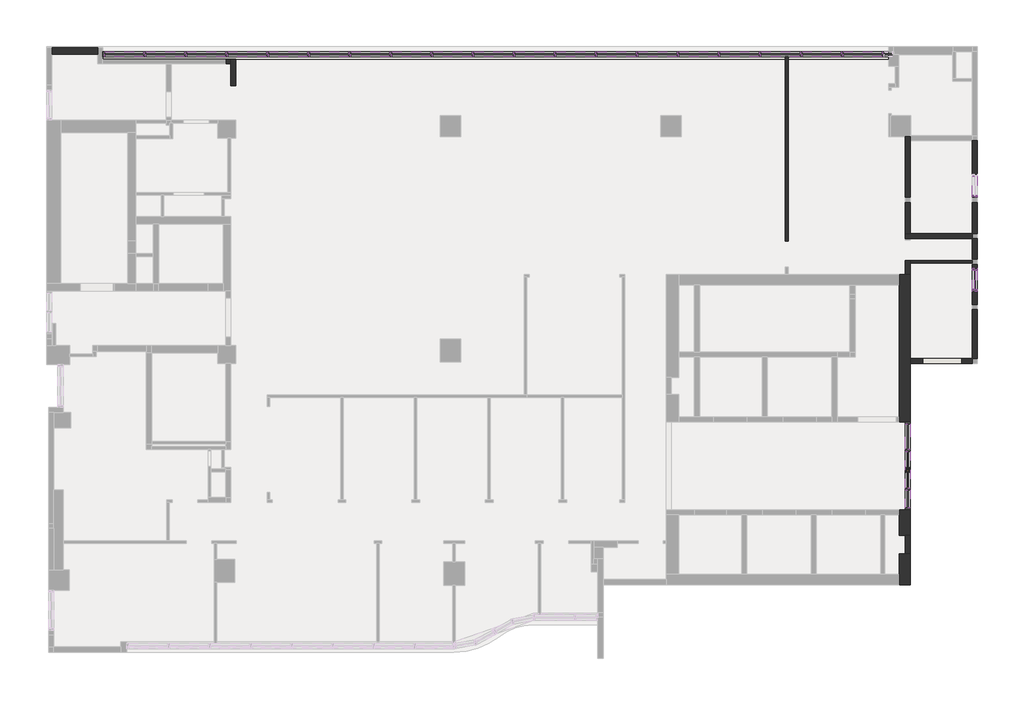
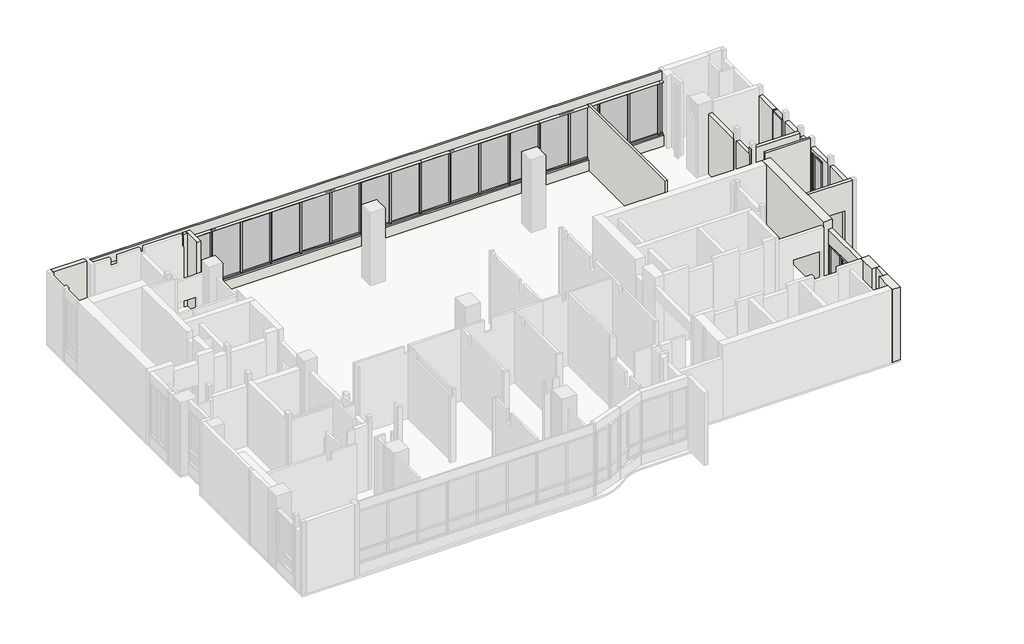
# One storey, part 4 of 5: 80 members, 24 plates, 21 walls, 1 door.
"""IFC4 building model written with IfcOpenShell, lengths in millimetres."""

from ifc_helpers import new_model, si_unit, frame, origin, place, context, project, spatial, polyline, outline, extrude, faceted_brep, transform, mapped, element, save
from components import door_a6c7acc9, member_70_x_200mm_85eb935a, member_70_x_200mm_ae6c61ee, member_70_x_200mm_b993ec4f, member_70_x_200mm_d2b00836, member_70_x_200mm_12a6a6c2, member_70_x_200mm_6f0fbdc8, member_70_x_200mm_47bebe16, member_80_x_200mm_c01ebbc2, member_80_x_200mm_d4063cdf, member_80_x_200mm_acbc830d, member_80_x_200mm_ad283842, member_80_x_200mm_1bd8c9b3, member_80_x_200mm_ce7c0673, member_80_x_200mm_ca749dba, plate_ecb7967d, plate_2d4e0490, plate_9c331fab, plate_c03f1867, plate_fe0cc9e6, plate_3a2ac947

model = new_model("IFC4")

# Units and contexts
model_context = context("Model", 3, world=origin())
ifc_project = project(units=[si_unit("LENGTHUNIT", "METRE", prefix="MILLI")], contexts=[model_context])

# Site, building, storey
site = spatial("IfcSite", under=ifc_project)
building = spatial("IfcBuilding", under=site)
storey = spatial("IfcBuildingStorey", under=building, Name="20F(S)", Elevation=-100.0)

# Door
placement = place(None, origin())
door_shape = door_a6c7acc9(model_context)
element("IfcDoor", 1, ObjectType="门嵌板_双开门3 : 门嵌板_双开门 3", at=placement, inside=storey, context=model_context, shape_type="MappedRepresentation", body=[
    mapped(door_shape, transform((32690.0000015, 4069.99237, 80.0), x_axis=(0.0, -1.0, 0.0), y_axis=(1.0, 0.0, 0.0), z_axis=(0.0, 0.0, 1.0))),
])

# Members
member_70_x_200mm_shape = member_70_x_200mm_85eb935a(model_context)
element("IfcMember", 2, ObjectType="矩形竖梃 : 70 x 200mm", at=placement, inside=storey, context=model_context, shape_type="MappedRepresentation", body=[
    mapped(member_70_x_200mm_shape, transform((35290.0000011, 14639.8579857, 500.0), x_axis=(0.0, -1.0, 0.0), y_axis=(-1.0, 0.0, 0.0), z_axis=(0.0, 0.0, -1.0))),
])
element("IfcMember", 3, ObjectType="矩形竖梃 : 70 x 200mm", at=placement, inside=storey, context=model_context, shape_type="MappedRepresentation", body=[
    mapped(member_70_x_200mm_shape, transform((35290.0000003, 10989.9924082, 500.0), x_axis=(0.0, -1.0, 0.0), y_axis=(-1.0, 0.0, 0.0), z_axis=(0.0, 0.0, -1.0))),
])
member_70_x_200mm_2_shape = member_70_x_200mm_ae6c61ee(model_context)
element("IfcMember", 4, ObjectType="矩形竖梃 : 70 x 200mm", at=placement, inside=storey, context=model_context, shape_type="MappedRepresentation", body=[
    mapped(member_70_x_200mm_2_shape, transform((35290.0000011, 14639.8579857, 1210.0), x_axis=(0.0, -1.0, 0.0), y_axis=(-1.0, 0.0, 0.0), z_axis=(0.0, 0.0, -1.0))),
])
element("IfcMember", 5, ObjectType="矩形竖梃 : 70 x 200mm", at=placement, inside=storey, context=model_context, shape_type="MappedRepresentation", body=[
    mapped(member_70_x_200mm_shape, transform((35290.0000003, 11889.9924082, 1210.0), x_axis=(0.0, 1.0, 0.0), y_axis=(-1.0, 0.0, 0.0), z_axis=(0.0, 0.0, 1.0))),
])
member_70_x_200mm_3_shape = member_70_x_200mm_b993ec4f(model_context)
element("IfcMember", 6, ObjectType="矩形竖梃 : 70 x 200mm", at=placement, inside=storey, context=model_context, shape_type="MappedRepresentation", body=[
    mapped(member_70_x_200mm_3_shape, transform((3115.0000012, 20190.0, 500.0), x_axis=(1.0, 0.0, 0.0), y_axis=(0.0, -1.0, 0.0), z_axis=(0.0, 0.0, -1.0))),
])
element("IfcMember", 7, ObjectType="矩形竖梃 : 70 x 200mm", at=placement, inside=storey, context=model_context, shape_type="MappedRepresentation", body=[
    mapped(member_70_x_200mm_3_shape, transform((4705.0000012, 20190.0, 500.0), x_axis=(1.0, 0.0, 0.0), y_axis=(0.0, -1.0, 0.0), z_axis=(0.0, 0.0, -1.0))),
])
element("IfcMember", 8, ObjectType="矩形竖梃 : 70 x 200mm", at=placement, inside=storey, context=model_context, shape_type="MappedRepresentation", body=[
    mapped(member_70_x_200mm_3_shape, transform((6295.0000012, 20190.0, 500.0), x_axis=(1.0, 0.0, 0.0), y_axis=(0.0, -1.0, 0.0), z_axis=(0.0, 0.0, -1.0))),
])
element("IfcMember", 9, ObjectType="矩形竖梃 : 70 x 200mm", at=placement, inside=storey, context=model_context, shape_type="MappedRepresentation", body=[
    mapped(member_70_x_200mm_3_shape, transform((7885.0000012, 20190.0, 500.0), x_axis=(1.0, 0.0, 0.0), y_axis=(0.0, -1.0, 0.0), z_axis=(0.0, 0.0, -1.0))),
])
element("IfcMember", 10, ObjectType="矩形竖梃 : 70 x 200mm", at=placement, inside=storey, context=model_context, shape_type="MappedRepresentation", body=[
    mapped(member_70_x_200mm_3_shape, transform((9475.0000012, 20190.0, 500.0), x_axis=(1.0, 0.0, 0.0), y_axis=(0.0, -1.0, 0.0), z_axis=(0.0, 0.0, -1.0))),
])
element("IfcMember", 11, ObjectType="矩形竖梃 : 70 x 200mm", at=placement, inside=storey, context=model_context, shape_type="MappedRepresentation", body=[
    mapped(member_70_x_200mm_3_shape, transform((11065.0000012, 20190.0, 500.0), x_axis=(1.0, 0.0, 0.0), y_axis=(0.0, -1.0, 0.0), z_axis=(0.0, 0.0, -1.0))),
])
element("IfcMember", 12, ObjectType="矩形竖梃 : 70 x 200mm", at=placement, inside=storey, context=model_context, shape_type="MappedRepresentation", body=[
    mapped(member_70_x_200mm_3_shape, transform((12655.0000012, 20190.0, 500.0), x_axis=(1.0, 0.0, 0.0), y_axis=(0.0, -1.0, 0.0), z_axis=(0.0, 0.0, -1.0))),
])
element("IfcMember", 13, ObjectType="矩形竖梃 : 70 x 200mm", at=placement, inside=storey, context=model_context, shape_type="MappedRepresentation", body=[
    mapped(member_70_x_200mm_3_shape, transform((14245.0000012, 20190.0, 500.0), x_axis=(1.0, 0.0, 0.0), y_axis=(0.0, -1.0, 0.0), z_axis=(0.0, 0.0, -1.0))),
])
element("IfcMember", 14, ObjectType="矩形竖梃 : 70 x 200mm", at=placement, inside=storey, context=model_context, shape_type="MappedRepresentation", body=[
    mapped(member_70_x_200mm_3_shape, transform((15835.0000012, 20190.0, 500.0), x_axis=(1.0, 0.0, 0.0), y_axis=(0.0, -1.0, 0.0), z_axis=(0.0, 0.0, -1.0))),
])
element("IfcMember", 15, ObjectType="矩形竖梃 : 70 x 200mm", at=placement, inside=storey, context=model_context, shape_type="MappedRepresentation", body=[
    mapped(member_70_x_200mm_3_shape, transform((17425.0000012, 20190.0, 500.0), x_axis=(1.0, 0.0, 0.0), y_axis=(0.0, -1.0, 0.0), z_axis=(0.0, 0.0, -1.0))),
])
element("IfcMember", 16, ObjectType="矩形竖梃 : 70 x 200mm", at=placement, inside=storey, context=model_context, shape_type="MappedRepresentation", body=[
    mapped(member_70_x_200mm_3_shape, transform((19015.0000012, 20190.0, 500.0), x_axis=(1.0, 0.0, 0.0), y_axis=(0.0, -1.0, 0.0), z_axis=(0.0, 0.0, -1.0))),
])
element("IfcMember", 17, ObjectType="矩形竖梃 : 70 x 200mm", at=placement, inside=storey, context=model_context, shape_type="MappedRepresentation", body=[
    mapped(member_70_x_200mm_3_shape, transform((20605.0000012, 20190.0, 500.0), x_axis=(1.0, 0.0, 0.0), y_axis=(0.0, -1.0, 0.0), z_axis=(0.0, 0.0, -1.0))),
])
element("IfcMember", 18, ObjectType="矩形竖梃 : 70 x 200mm", at=placement, inside=storey, context=model_context, shape_type="MappedRepresentation", body=[
    mapped(member_70_x_200mm_3_shape, transform((22195.0000012, 20190.0, 500.0), x_axis=(1.0, 0.0, 0.0), y_axis=(0.0, -1.0, 0.0), z_axis=(0.0, 0.0, -1.0))),
])
element("IfcMember", 19, ObjectType="矩形竖梃 : 70 x 200mm", at=placement, inside=storey, context=model_context, shape_type="MappedRepresentation", body=[
    mapped(member_70_x_200mm_3_shape, transform((23785.0000012, 20190.0, 500.0), x_axis=(1.0, 0.0, 0.0), y_axis=(0.0, -1.0, 0.0), z_axis=(0.0, 0.0, -1.0))),
])
element("IfcMember", 20, ObjectType="矩形竖梃 : 70 x 200mm", at=placement, inside=storey, context=model_context, shape_type="MappedRepresentation", body=[
    mapped(member_70_x_200mm_3_shape, transform((25375.0000012, 20190.0, 500.0), x_axis=(1.0, 0.0, 0.0), y_axis=(0.0, -1.0, 0.0), z_axis=(0.0, 0.0, -1.0))),
])
element("IfcMember", 21, ObjectType="矩形竖梃 : 70 x 200mm", at=placement, inside=storey, context=model_context, shape_type="MappedRepresentation", body=[
    mapped(member_70_x_200mm_3_shape, transform((26965.0000012, 20190.0, 500.0), x_axis=(1.0, 0.0, 0.0), y_axis=(0.0, -1.0, 0.0), z_axis=(0.0, 0.0, -1.0))),
])
element("IfcMember", 22, ObjectType="矩形竖梃 : 70 x 200mm", at=placement, inside=storey, context=model_context, shape_type="MappedRepresentation", body=[
    mapped(member_70_x_200mm_3_shape, transform((28555.0000012, 20190.0, 500.0), x_axis=(1.0, 0.0, 0.0), y_axis=(0.0, -1.0, 0.0), z_axis=(0.0, 0.0, -1.0))),
])
element("IfcMember", 23, ObjectType="矩形竖梃 : 70 x 200mm", at=placement, inside=storey, context=model_context, shape_type="MappedRepresentation", body=[
    mapped(member_70_x_200mm_3_shape, transform((30145.0000012, 20190.0, 500.0), x_axis=(1.0, 0.0, 0.0), y_axis=(0.0, -1.0, 0.0), z_axis=(0.0, 0.0, -1.0))),
])
element("IfcMember", 24, ObjectType="矩形竖梃 : 70 x 200mm", at=placement, inside=storey, context=model_context, shape_type="MappedRepresentation", body=[
    mapped(member_70_x_200mm_3_shape, transform((31735.0000012, 20190.0, 500.0), x_axis=(1.0, 0.0, 0.0), y_axis=(0.0, -1.0, 0.0), z_axis=(0.0, 0.0, -1.0))),
])
member_70_x_200mm_4_shape = member_70_x_200mm_d2b00836(model_context)
element("IfcMember", 25, ObjectType="矩形竖梃 : 70 x 200mm", at=placement, inside=storey, context=model_context, shape_type="MappedRepresentation", body=[
    mapped(member_70_x_200mm_4_shape, transform((1490.0000009, 20190.0, 3490.0), x_axis=(-1.0, 0.0, 0.0), y_axis=(0.0, -1.0, 0.0), z_axis=(0.0, 0.0, 1.0))),
])
member_70_x_200mm_5_shape = member_70_x_200mm_12a6a6c2(model_context)
element("IfcMember", 26, ObjectType="矩形竖梃 : 70 x 200mm", at=placement, inside=storey, context=model_context, shape_type="MappedRepresentation", body=[
    mapped(member_70_x_200mm_5_shape, transform((35290.0000003, 11889.9924082, 3300.0), x_axis=(0.0, 1.0, 0.0), y_axis=(-1.0, 0.0, 0.0), z_axis=(0.0, 0.0, 1.0))),
])
element("IfcMember", 27, ObjectType="矩形竖梃 : 70 x 200mm", at=placement, inside=storey, context=model_context, shape_type="MappedRepresentation", body=[
    mapped(member_70_x_200mm_5_shape, transform((35290.0000003, 10989.9924082, 1210.0), x_axis=(0.0, -1.0, 0.0), y_axis=(-1.0, 0.0, 0.0), z_axis=(0.0, 0.0, -1.0))),
])
member_70_x_200mm_6_shape = member_70_x_200mm_6f0fbdc8(model_context)
element("IfcMember", 28, ObjectType="矩形竖梃 : 70 x 200mm", at=placement, inside=storey, context=model_context, shape_type="MappedRepresentation", body=[
    mapped(member_70_x_200mm_6_shape, transform((32690.0000015, 3319.99237, 0.0), x_axis=(0.0, -1.0, 0.0), y_axis=(-1.0, 0.0, 0.0), z_axis=(0.0, 0.0, -1.0))),
])
element("IfcMember", 29, ObjectType="矩形竖梃 : 70 x 200mm", at=placement, inside=storey, context=model_context, shape_type="MappedRepresentation", body=[
    mapped(member_70_x_200mm_6_shape, transform((32690.0000015, 4819.99237, 0.0), x_axis=(0.0, -1.0, 0.0), y_axis=(-1.0, 0.0, 0.0), z_axis=(0.0, 0.0, -1.0))),
])
member_70_x_200mm_7_shape = member_70_x_200mm_47bebe16(model_context)
element("IfcMember", 30, ObjectType="矩形竖梃 : 70 x 200mm", at=placement, inside=storey, context=model_context, shape_type="MappedRepresentation", body=[
    mapped(member_70_x_200mm_7_shape, transform((32690.0000015, 2519.99237, 0.0), x_axis=(0.0, -1.0, 0.0), y_axis=(-1.0, 0.0, 0.0), z_axis=(0.0, 0.0, -1.0))),
])
element("IfcMember", 31, ObjectType="矩形竖梃 : 70 x 200mm", at=placement, inside=storey, context=model_context, shape_type="MappedRepresentation", body=[
    mapped(member_70_x_200mm_7_shape, transform((32690.0000015, 5919.99237, 2700.0), x_axis=(0.0, 1.0, 0.0), y_axis=(-1.0, 0.0, 0.0), z_axis=(0.0, 0.0, 1.0))),
])
member_80_x_200mm_shape = member_80_x_200mm_c01ebbc2(model_context)
element("IfcMember", 32, ObjectType="矩形竖梃 : 80 x 200mm", at=placement, inside=storey, context=model_context, shape_type="MappedRepresentation", body=[
    mapped(member_80_x_200mm_shape, transform((3080.0000012, 20190.0, 3490.0), x_axis=(0.0, 0.0, 1.0), y_axis=(0.0, -1.0, 0.0), z_axis=(1.0, 0.0, 0.0))),
])
element("IfcMember", 33, ObjectType="矩形竖梃 : 80 x 200mm", at=placement, inside=storey, context=model_context, shape_type="MappedRepresentation", body=[
    mapped(member_80_x_200mm_shape, transform((4670.0000012, 20190.0, 3490.0), x_axis=(0.0, 0.0, 1.0), y_axis=(0.0, -1.0, 0.0), z_axis=(1.0, 0.0, 0.0))),
])
element("IfcMember", 34, ObjectType="矩形竖梃 : 80 x 200mm", at=placement, inside=storey, context=model_context, shape_type="MappedRepresentation", body=[
    mapped(member_80_x_200mm_shape, transform((6260.0000012, 20190.0, 3490.0), x_axis=(0.0, 0.0, 1.0), y_axis=(0.0, -1.0, 0.0), z_axis=(1.0, 0.0, 0.0))),
])
element("IfcMember", 35, ObjectType="矩形竖梃 : 80 x 200mm", at=placement, inside=storey, context=model_context, shape_type="MappedRepresentation", body=[
    mapped(member_80_x_200mm_shape, transform((7850.0000012, 20190.0, 3490.0), x_axis=(0.0, 0.0, 1.0), y_axis=(0.0, -1.0, 0.0), z_axis=(1.0, 0.0, 0.0))),
])
element("IfcMember", 36, ObjectType="矩形竖梃 : 80 x 200mm", at=placement, inside=storey, context=model_context, shape_type="MappedRepresentation", body=[
    mapped(member_80_x_200mm_shape, transform((9440.0000012, 20190.0, 3490.0), x_axis=(0.0, 0.0, 1.0), y_axis=(0.0, -1.0, 0.0), z_axis=(1.0, 0.0, 0.0))),
])
element("IfcMember", 37, ObjectType="矩形竖梃 : 80 x 200mm", at=placement, inside=storey, context=model_context, shape_type="MappedRepresentation", body=[
    mapped(member_80_x_200mm_shape, transform((11030.0000012, 20190.0, 3490.0), x_axis=(0.0, 0.0, 1.0), y_axis=(0.0, -1.0, 0.0), z_axis=(1.0, 0.0, 0.0))),
])
element("IfcMember", 38, ObjectType="矩形竖梃 : 80 x 200mm", at=placement, inside=storey, context=model_context, shape_type="MappedRepresentation", body=[
    mapped(member_80_x_200mm_shape, transform((12620.0000012, 20190.0, 3490.0), x_axis=(0.0, 0.0, 1.0), y_axis=(0.0, -1.0, 0.0), z_axis=(1.0, 0.0, 0.0))),
])
element("IfcMember", 39, ObjectType="矩形竖梃 : 80 x 200mm", at=placement, inside=storey, context=model_context, shape_type="MappedRepresentation", body=[
    mapped(member_80_x_200mm_shape, transform((14210.0000012, 20190.0, 3490.0), x_axis=(0.0, 0.0, 1.0), y_axis=(0.0, -1.0, 0.0), z_axis=(1.0, 0.0, 0.0))),
])
element("IfcMember", 40, ObjectType="矩形竖梃 : 80 x 200mm", at=placement, inside=storey, context=model_context, shape_type="MappedRepresentation", body=[
    mapped(member_80_x_200mm_shape, transform((15800.0000012, 20190.0, 3490.0), x_axis=(0.0, 0.0, 1.0), y_axis=(0.0, -1.0, 0.0), z_axis=(1.0, 0.0, 0.0))),
])
element("IfcMember", 41, ObjectType="矩形竖梃 : 80 x 200mm", at=placement, inside=storey, context=model_context, shape_type="MappedRepresentation", body=[
    mapped(member_80_x_200mm_shape, transform((17390.0000012, 20190.0, 3490.0), x_axis=(0.0, 0.0, 1.0), y_axis=(0.0, -1.0, 0.0), z_axis=(1.0, 0.0, 0.0))),
])
element("IfcMember", 42, ObjectType="矩形竖梃 : 80 x 200mm", at=placement, inside=storey, context=model_context, shape_type="MappedRepresentation", body=[
    mapped(member_80_x_200mm_shape, transform((18980.0000012, 20190.0, 3490.0), x_axis=(0.0, 0.0, 1.0), y_axis=(0.0, -1.0, 0.0), z_axis=(1.0, 0.0, 0.0))),
])
element("IfcMember", 43, ObjectType="矩形竖梃 : 80 x 200mm", at=placement, inside=storey, context=model_context, shape_type="MappedRepresentation", body=[
    mapped(member_80_x_200mm_shape, transform((20570.0000012, 20190.0, 3490.0), x_axis=(0.0, 0.0, 1.0), y_axis=(0.0, -1.0, 0.0), z_axis=(1.0, 0.0, 0.0))),
])
element("IfcMember", 44, ObjectType="矩形竖梃 : 80 x 200mm", at=placement, inside=storey, context=model_context, shape_type="MappedRepresentation", body=[
    mapped(member_80_x_200mm_shape, transform((22160.0000012, 20190.0, 3490.0), x_axis=(0.0, 0.0, 1.0), y_axis=(0.0, -1.0, 0.0), z_axis=(1.0, 0.0, 0.0))),
])
element("IfcMember", 45, ObjectType="矩形竖梃 : 80 x 200mm", at=placement, inside=storey, context=model_context, shape_type="MappedRepresentation", body=[
    mapped(member_80_x_200mm_shape, transform((23750.0000012, 20190.0, 3490.0), x_axis=(0.0, 0.0, 1.0), y_axis=(0.0, -1.0, 0.0), z_axis=(1.0, 0.0, 0.0))),
])
element("IfcMember", 46, ObjectType="矩形竖梃 : 80 x 200mm", at=placement, inside=storey, context=model_context, shape_type="MappedRepresentation", body=[
    mapped(member_80_x_200mm_shape, transform((25340.0000012, 20190.0, 3490.0), x_axis=(0.0, 0.0, 1.0), y_axis=(0.0, -1.0, 0.0), z_axis=(1.0, 0.0, 0.0))),
])
element("IfcMember", 47, ObjectType="矩形竖梃 : 80 x 200mm", at=placement, inside=storey, context=model_context, shape_type="MappedRepresentation", body=[
    mapped(member_80_x_200mm_shape, transform((26930.0000012, 20190.0, 3490.0), x_axis=(0.0, 0.0, 1.0), y_axis=(0.0, -1.0, 0.0), z_axis=(1.0, 0.0, 0.0))),
])
element("IfcMember", 48, ObjectType="矩形竖梃 : 80 x 200mm", at=placement, inside=storey, context=model_context, shape_type="MappedRepresentation", body=[
    mapped(member_80_x_200mm_shape, transform((28520.0000012, 20190.0, 3490.0), x_axis=(0.0, 0.0, 1.0), y_axis=(0.0, -1.0, 0.0), z_axis=(1.0, 0.0, 0.0))),
])
element("IfcMember", 49, ObjectType="矩形竖梃 : 80 x 200mm", at=placement, inside=storey, context=model_context, shape_type="MappedRepresentation", body=[
    mapped(member_80_x_200mm_shape, transform((30110.0000012, 20190.0, 3490.0), x_axis=(0.0, 0.0, 1.0), y_axis=(0.0, -1.0, 0.0), z_axis=(1.0, 0.0, 0.0))),
])
element("IfcMember", 50, ObjectType="矩形竖梃 : 80 x 200mm", at=placement, inside=storey, context=model_context, shape_type="MappedRepresentation", body=[
    mapped(member_80_x_200mm_shape, transform((31700.0000012, 20190.0, 3490.0), x_axis=(0.0, 0.0, 1.0), y_axis=(0.0, -1.0, 0.0), z_axis=(1.0, 0.0, 0.0))),
])
element("IfcMember", 51, ObjectType="矩形竖梃 : 80 x 200mm", at=placement, inside=storey, context=model_context, shape_type="MappedRepresentation", body=[
    mapped(member_80_x_200mm_shape, transform((1560.0000009, 20190.0, 500.0), x_axis=(0.0, 0.0, -1.0), y_axis=(0.0, -1.0, 0.0), z_axis=(-1.0, 0.0, 0.0))),
])
element("IfcMember", 52, ObjectType="矩形竖梃 : 80 x 200mm", at=placement, inside=storey, context=model_context, shape_type="MappedRepresentation", body=[
    mapped(member_80_x_200mm_shape, transform((3150.0000012, 20190.0, 500.0), x_axis=(0.0, 0.0, -1.0), y_axis=(0.0, -1.0, 0.0), z_axis=(-1.0, 0.0, 0.0))),
])
element("IfcMember", 53, ObjectType="矩形竖梃 : 80 x 200mm", at=placement, inside=storey, context=model_context, shape_type="MappedRepresentation", body=[
    mapped(member_80_x_200mm_shape, transform((4740.0000012, 20190.0, 500.0), x_axis=(0.0, 0.0, -1.0), y_axis=(0.0, -1.0, 0.0), z_axis=(-1.0, 0.0, 0.0))),
])
element("IfcMember", 54, ObjectType="矩形竖梃 : 80 x 200mm", at=placement, inside=storey, context=model_context, shape_type="MappedRepresentation", body=[
    mapped(member_80_x_200mm_shape, transform((6330.0000012, 20190.0, 500.0), x_axis=(0.0, 0.0, -1.0), y_axis=(0.0, -1.0, 0.0), z_axis=(-1.0, 0.0, 0.0))),
])
element("IfcMember", 55, ObjectType="矩形竖梃 : 80 x 200mm", at=placement, inside=storey, context=model_context, shape_type="MappedRepresentation", body=[
    mapped(member_80_x_200mm_shape, transform((7920.0000012, 20190.0, 500.0), x_axis=(0.0, 0.0, -1.0), y_axis=(0.0, -1.0, 0.0), z_axis=(-1.0, 0.0, 0.0))),
])
element("IfcMember", 56, ObjectType="矩形竖梃 : 80 x 200mm", at=placement, inside=storey, context=model_context, shape_type="MappedRepresentation", body=[
    mapped(member_80_x_200mm_shape, transform((9510.0000012, 20190.0, 500.0), x_axis=(0.0, 0.0, -1.0), y_axis=(0.0, -1.0, 0.0), z_axis=(-1.0, 0.0, 0.0))),
])
element("IfcMember", 57, ObjectType="矩形竖梃 : 80 x 200mm", at=placement, inside=storey, context=model_context, shape_type="MappedRepresentation", body=[
    mapped(member_80_x_200mm_shape, transform((11100.0000012, 20190.0, 500.0), x_axis=(0.0, 0.0, -1.0), y_axis=(0.0, -1.0, 0.0), z_axis=(-1.0, 0.0, 0.0))),
])
element("IfcMember", 58, ObjectType="矩形竖梃 : 80 x 200mm", at=placement, inside=storey, context=model_context, shape_type="MappedRepresentation", body=[
    mapped(member_80_x_200mm_shape, transform((12690.0000012, 20190.0, 500.0), x_axis=(0.0, 0.0, -1.0), y_axis=(0.0, -1.0, 0.0), z_axis=(-1.0, 0.0, 0.0))),
])
element("IfcMember", 59, ObjectType="矩形竖梃 : 80 x 200mm", at=placement, inside=storey, context=model_context, shape_type="MappedRepresentation", body=[
    mapped(member_80_x_200mm_shape, transform((14280.0000012, 20190.0, 500.0), x_axis=(0.0, 0.0, -1.0), y_axis=(0.0, -1.0, 0.0), z_axis=(-1.0, 0.0, 0.0))),
])
element("IfcMember", 60, ObjectType="矩形竖梃 : 80 x 200mm", at=placement, inside=storey, context=model_context, shape_type="MappedRepresentation", body=[
    mapped(member_80_x_200mm_shape, transform((15870.0000012, 20190.0, 500.0), x_axis=(0.0, 0.0, -1.0), y_axis=(0.0, -1.0, 0.0), z_axis=(-1.0, 0.0, 0.0))),
])
element("IfcMember", 61, ObjectType="矩形竖梃 : 80 x 200mm", at=placement, inside=storey, context=model_context, shape_type="MappedRepresentation", body=[
    mapped(member_80_x_200mm_shape, transform((17460.0000012, 20190.0, 500.0), x_axis=(0.0, 0.0, -1.0), y_axis=(0.0, -1.0, 0.0), z_axis=(-1.0, 0.0, 0.0))),
])
element("IfcMember", 62, ObjectType="矩形竖梃 : 80 x 200mm", at=placement, inside=storey, context=model_context, shape_type="MappedRepresentation", body=[
    mapped(member_80_x_200mm_shape, transform((19050.0000012, 20190.0, 500.0), x_axis=(0.0, 0.0, -1.0), y_axis=(0.0, -1.0, 0.0), z_axis=(-1.0, 0.0, 0.0))),
])
element("IfcMember", 63, ObjectType="矩形竖梃 : 80 x 200mm", at=placement, inside=storey, context=model_context, shape_type="MappedRepresentation", body=[
    mapped(member_80_x_200mm_shape, transform((20640.0000012, 20190.0, 500.0), x_axis=(0.0, 0.0, -1.0), y_axis=(0.0, -1.0, 0.0), z_axis=(-1.0, 0.0, 0.0))),
])
element("IfcMember", 64, ObjectType="矩形竖梃 : 80 x 200mm", at=placement, inside=storey, context=model_context, shape_type="MappedRepresentation", body=[
    mapped(member_80_x_200mm_shape, transform((22230.0000012, 20190.0, 500.0), x_axis=(0.0, 0.0, -1.0), y_axis=(0.0, -1.0, 0.0), z_axis=(-1.0, 0.0, 0.0))),
])
element("IfcMember", 65, ObjectType="矩形竖梃 : 80 x 200mm", at=placement, inside=storey, context=model_context, shape_type="MappedRepresentation", body=[
    mapped(member_80_x_200mm_shape, transform((23820.0000012, 20190.0, 500.0), x_axis=(0.0, 0.0, -1.0), y_axis=(0.0, -1.0, 0.0), z_axis=(-1.0, 0.0, 0.0))),
])
element("IfcMember", 66, ObjectType="矩形竖梃 : 80 x 200mm", at=placement, inside=storey, context=model_context, shape_type="MappedRepresentation", body=[
    mapped(member_80_x_200mm_shape, transform((25410.0000012, 20190.0, 500.0), x_axis=(0.0, 0.0, -1.0), y_axis=(0.0, -1.0, 0.0), z_axis=(-1.0, 0.0, 0.0))),
])
element("IfcMember", 67, ObjectType="矩形竖梃 : 80 x 200mm", at=placement, inside=storey, context=model_context, shape_type="MappedRepresentation", body=[
    mapped(member_80_x_200mm_shape, transform((27000.0000012, 20190.0, 500.0), x_axis=(0.0, 0.0, -1.0), y_axis=(0.0, -1.0, 0.0), z_axis=(-1.0, 0.0, 0.0))),
])
element("IfcMember", 68, ObjectType="矩形竖梃 : 80 x 200mm", at=placement, inside=storey, context=model_context, shape_type="MappedRepresentation", body=[
    mapped(member_80_x_200mm_shape, transform((28590.0000012, 20190.0, 500.0), x_axis=(0.0, 0.0, -1.0), y_axis=(0.0, -1.0, 0.0), z_axis=(-1.0, 0.0, 0.0))),
])
element("IfcMember", 69, ObjectType="矩形竖梃 : 80 x 200mm", at=placement, inside=storey, context=model_context, shape_type="MappedRepresentation", body=[
    mapped(member_80_x_200mm_shape, transform((30180.0000012, 20190.0, 500.0), x_axis=(0.0, 0.0, -1.0), y_axis=(0.0, -1.0, 0.0), z_axis=(-1.0, 0.0, 0.0))),
])
member_80_x_200mm_2_shape = member_80_x_200mm_d4063cdf(model_context)
element("IfcMember", 70, ObjectType="矩形竖梃 : 80 x 200mm", at=placement, inside=storey, context=model_context, shape_type="MappedRepresentation", body=[
    mapped(member_80_x_200mm_2_shape, transform((31770.0000012, 20190.0, 500.0), x_axis=(0.0, 0.0, -1.0), y_axis=(0.0, -1.0, 0.0), z_axis=(-1.0, 0.0, 0.0))),
])
member_80_x_200mm_3_shape = member_80_x_200mm_acbc830d(model_context)
element("IfcMember", 71, ObjectType="矩形竖梃 : 80 x 200mm", at=placement, inside=storey, context=model_context, shape_type="MappedRepresentation", body=[
    mapped(member_80_x_200mm_3_shape, transform((32690.0000015, 2589.99237, 2700.0), x_axis=(0.0, 0.0, 1.0), y_axis=(-1.0, 0.0, 0.0), z_axis=(0.0, -1.0, 0.0))),
])
element("IfcMember", 72, ObjectType="矩形竖梃 : 80 x 200mm", at=placement, inside=storey, context=model_context, shape_type="MappedRepresentation", body=[
    mapped(member_80_x_200mm_3_shape, transform((32690.0000015, 3284.99237, 0.0), x_axis=(0.0, 0.0, -1.0), y_axis=(-1.0, 0.0, 0.0), z_axis=(0.0, 1.0, 0.0))),
])
member_80_x_200mm_4_shape = member_80_x_200mm_ad283842(model_context)
element("IfcMember", 73, ObjectType="矩形竖梃 : 80 x 200mm", at=placement, inside=storey, context=model_context, shape_type="MappedRepresentation", body=[
    mapped(member_80_x_200mm_4_shape, transform((32690.0000015, 5849.99237, 0.0), x_axis=(0.0, 0.0, -1.0), y_axis=(-1.0, 0.0, 0.0), z_axis=(0.0, 1.0, 0.0))),
])
member_80_x_200mm_5_shape = member_80_x_200mm_1bd8c9b3(model_context)
element("IfcMember", 74, ObjectType="矩形竖梃 : 80 x 200mm", at=placement, inside=storey, context=model_context, shape_type="MappedRepresentation", body=[
    mapped(member_80_x_200mm_5_shape, transform((32690.0000015, 3354.99237, 2700.0), x_axis=(0.0, 0.0, 1.0), y_axis=(-1.0, 0.0, 0.0), z_axis=(0.0, -1.0, 0.0))),
])
element("IfcMember", 75, ObjectType="矩形竖梃 : 80 x 200mm", at=placement, inside=storey, context=model_context, shape_type="MappedRepresentation", body=[
    mapped(member_80_x_200mm_4_shape, transform((32690.0000015, 4854.99237, 2700.0), x_axis=(0.0, 0.0, 1.0), y_axis=(-1.0, 0.0, 0.0), z_axis=(0.0, -1.0, 0.0))),
])
element("IfcMember", 76, ObjectType="矩形竖梃 : 80 x 200mm", at=placement, inside=storey, context=model_context, shape_type="MappedRepresentation", body=[
    mapped(member_80_x_200mm_5_shape, transform((32690.0000015, 4784.99237, 0.0), x_axis=(0.0, 0.0, -1.0), y_axis=(-1.0, 0.0, 0.0), z_axis=(0.0, 1.0, 0.0))),
])
member_80_x_200mm_6_shape = member_80_x_200mm_ce7c0673(model_context)
element("IfcMember", 77, ObjectType="矩形竖梃 : 80 x 200mm", at=placement, inside=storey, context=model_context, shape_type="MappedRepresentation", body=[
    mapped(member_80_x_200mm_6_shape, transform((35290.0000011, 14709.8579857, 3500.0), x_axis=(0.0, 0.0, 1.0), y_axis=(-1.0, 0.0, 0.0), z_axis=(0.0, -1.0, 0.0))),
])
element("IfcMember", 78, ObjectType="矩形竖梃 : 80 x 200mm", at=placement, inside=storey, context=model_context, shape_type="MappedRepresentation", body=[
    mapped(member_80_x_200mm_6_shape, transform((35290.0000003, 11059.9924082, 3300.0), x_axis=(0.0, 0.0, 1.0), y_axis=(-1.0, 0.0, 0.0), z_axis=(0.0, -1.0, 0.0))),
])
element("IfcMember", 79, ObjectType="矩形竖梃 : 80 x 200mm", at=placement, inside=storey, context=model_context, shape_type="MappedRepresentation", body=[
    mapped(member_80_x_200mm_6_shape, transform((35290.0000003, 11819.9924082, 500.0), x_axis=(0.0, 0.0, -1.0), y_axis=(-1.0, 0.0, 0.0), z_axis=(0.0, 1.0, 0.0))),
])
member_80_x_200mm_7_shape = member_80_x_200mm_ca749dba(model_context)
element("IfcMember", 80, ObjectType="矩形竖梃 : 80 x 200mm", at=placement, inside=storey, context=model_context, shape_type="MappedRepresentation", body=[
    mapped(member_80_x_200mm_7_shape, transform((35290.0000003, 11059.9924082, 1210.0), x_axis=(0.0, 0.0, 1.0), y_axis=(-1.0, 0.0, 0.0), z_axis=(0.0, -1.0, 0.0))),
])
element("IfcMember", 81, ObjectType="矩形竖梃 : 80 x 200mm", at=placement, inside=storey, context=model_context, shape_type="MappedRepresentation", body=[
    mapped(member_80_x_200mm_7_shape, transform((35290.0000011, 14709.8579857, 1210.0), x_axis=(0.0, 0.0, 1.0), y_axis=(-1.0, 0.0, 0.0), z_axis=(0.0, -1.0, 0.0))),
])

# Plates
plate_shape = plate_ecb7967d(model_context)
element("IfcPlate", 82, ObjectType="系统嵌板 : 玻璃", at=placement, inside=storey, context=model_context, shape_type="MappedRepresentation", body=[
    mapped(plate_shape, transform((2320.0000011, 20190.0, 580.0), x_axis=(1.0, 0.0, 0.0), y_axis=(0.0, 1.0, 0.0), z_axis=(0.0, 0.0, 1.0))),
])
element("IfcPlate", 83, ObjectType="系统嵌板 : 玻璃", at=placement, inside=storey, context=model_context, shape_type="MappedRepresentation", body=[
    mapped(plate_shape, transform((3910.0000012, 20190.0, 580.0), x_axis=(1.0, 0.0, 0.0), y_axis=(0.0, 1.0, 0.0), z_axis=(0.0, 0.0, 1.0))),
])
element("IfcPlate", 84, ObjectType="系统嵌板 : 玻璃", at=placement, inside=storey, context=model_context, shape_type="MappedRepresentation", body=[
    mapped(plate_shape, transform((5500.0000012, 20190.0, 580.0), x_axis=(1.0, 0.0, 0.0), y_axis=(0.0, 1.0, 0.0), z_axis=(0.0, 0.0, 1.0))),
])
element("IfcPlate", 85, ObjectType="系统嵌板 : 玻璃", at=placement, inside=storey, context=model_context, shape_type="MappedRepresentation", body=[
    mapped(plate_shape, transform((7090.0000012, 20190.0, 580.0), x_axis=(1.0, 0.0, 0.0), y_axis=(0.0, 1.0, 0.0), z_axis=(0.0, 0.0, 1.0))),
])
element("IfcPlate", 86, ObjectType="系统嵌板 : 玻璃", at=placement, inside=storey, context=model_context, shape_type="MappedRepresentation", body=[
    mapped(plate_shape, transform((8680.0000012, 20190.0, 580.0), x_axis=(1.0, 0.0, 0.0), y_axis=(0.0, 1.0, 0.0), z_axis=(0.0, 0.0, 1.0))),
])
element("IfcPlate", 87, ObjectType="系统嵌板 : 玻璃", at=placement, inside=storey, context=model_context, shape_type="MappedRepresentation", body=[
    mapped(plate_shape, transform((10270.0000012, 20190.0, 580.0), x_axis=(1.0, 0.0, 0.0), y_axis=(0.0, 1.0, 0.0), z_axis=(0.0, 0.0, 1.0))),
])
element("IfcPlate", 88, ObjectType="系统嵌板 : 玻璃", at=placement, inside=storey, context=model_context, shape_type="MappedRepresentation", body=[
    mapped(plate_shape, transform((11860.0000012, 20190.0, 580.0), x_axis=(1.0, 0.0, 0.0), y_axis=(0.0, 1.0, 0.0), z_axis=(0.0, 0.0, 1.0))),
])
element("IfcPlate", 89, ObjectType="系统嵌板 : 玻璃", at=placement, inside=storey, context=model_context, shape_type="MappedRepresentation", body=[
    mapped(plate_shape, transform((13450.0000012, 20190.0, 580.0), x_axis=(1.0, 0.0, 0.0), y_axis=(0.0, 1.0, 0.0), z_axis=(0.0, 0.0, 1.0))),
])
element("IfcPlate", 90, ObjectType="系统嵌板 : 玻璃", at=placement, inside=storey, context=model_context, shape_type="MappedRepresentation", body=[
    mapped(plate_shape, transform((15040.0000012, 20190.0, 580.0), x_axis=(1.0, 0.0, 0.0), y_axis=(0.0, 1.0, 0.0), z_axis=(0.0, 0.0, 1.0))),
])
element("IfcPlate", 91, ObjectType="系统嵌板 : 玻璃", at=placement, inside=storey, context=model_context, shape_type="MappedRepresentation", body=[
    mapped(plate_shape, transform((16630.0000012, 20190.0, 580.0), x_axis=(1.0, 0.0, 0.0), y_axis=(0.0, 1.0, 0.0), z_axis=(0.0, 0.0, 1.0))),
])
element("IfcPlate", 92, ObjectType="系统嵌板 : 玻璃", at=placement, inside=storey, context=model_context, shape_type="MappedRepresentation", body=[
    mapped(plate_shape, transform((18220.0000012, 20190.0, 580.0), x_axis=(1.0, 0.0, 0.0), y_axis=(0.0, 1.0, 0.0), z_axis=(0.0, 0.0, 1.0))),
])
element("IfcPlate", 93, ObjectType="系统嵌板 : 玻璃", at=placement, inside=storey, context=model_context, shape_type="MappedRepresentation", body=[
    mapped(plate_shape, transform((19810.0000012, 20190.0, 580.0), x_axis=(1.0, 0.0, 0.0), y_axis=(0.0, 1.0, 0.0), z_axis=(0.0, 0.0, 1.0))),
])
element("IfcPlate", 94, ObjectType="系统嵌板 : 玻璃", at=placement, inside=storey, context=model_context, shape_type="MappedRepresentation", body=[
    mapped(plate_shape, transform((21400.0000012, 20190.0, 580.0), x_axis=(1.0, 0.0, 0.0), y_axis=(0.0, 1.0, 0.0), z_axis=(0.0, 0.0, 1.0))),
])
element("IfcPlate", 95, ObjectType="系统嵌板 : 玻璃", at=placement, inside=storey, context=model_context, shape_type="MappedRepresentation", body=[
    mapped(plate_shape, transform((22990.0000012, 20190.0, 580.0), x_axis=(1.0, 0.0, 0.0), y_axis=(0.0, 1.0, 0.0), z_axis=(0.0, 0.0, 1.0))),
])
element("IfcPlate", 96, ObjectType="系统嵌板 : 玻璃", at=placement, inside=storey, context=model_context, shape_type="MappedRepresentation", body=[
    mapped(plate_shape, transform((24580.0000012, 20190.0, 580.0), x_axis=(1.0, 0.0, 0.0), y_axis=(0.0, 1.0, 0.0), z_axis=(0.0, 0.0, 1.0))),
])
element("IfcPlate", 97, ObjectType="系统嵌板 : 玻璃", at=placement, inside=storey, context=model_context, shape_type="MappedRepresentation", body=[
    mapped(plate_shape, transform((26170.0000012, 20190.0, 580.0), x_axis=(1.0, 0.0, 0.0), y_axis=(0.0, 1.0, 0.0), z_axis=(0.0, 0.0, 1.0))),
])
element("IfcPlate", 98, ObjectType="系统嵌板 : 玻璃", at=placement, inside=storey, context=model_context, shape_type="MappedRepresentation", body=[
    mapped(plate_shape, transform((27760.0000012, 20190.0, 580.0), x_axis=(1.0, 0.0, 0.0), y_axis=(0.0, 1.0, 0.0), z_axis=(0.0, 0.0, 1.0))),
])
element("IfcPlate", 99, ObjectType="系统嵌板 : 玻璃", at=placement, inside=storey, context=model_context, shape_type="MappedRepresentation", body=[
    mapped(plate_shape, transform((29350.0000012, 20190.0, 580.0), x_axis=(1.0, 0.0, 0.0), y_axis=(0.0, 1.0, 0.0), z_axis=(0.0, 0.0, 1.0))),
])
element("IfcPlate", 100, ObjectType="系统嵌板 : 玻璃", at=placement, inside=storey, context=model_context, shape_type="MappedRepresentation", body=[
    mapped(plate_shape, transform((30940.0000012, 20190.0, 580.0), x_axis=(1.0, 0.0, 0.0), y_axis=(0.0, 1.0, 0.0), z_axis=(0.0, 0.0, 1.0))),
])
plate_2_shape = plate_2d4e0490(model_context)
element("IfcPlate", 101, ObjectType="系统嵌板 : 玻璃", at=placement, inside=storey, context=model_context, shape_type="MappedRepresentation", body=[
    mapped(plate_2_shape, transform((31925.0000007, 20190.0, 580.0), x_axis=(1.0, 0.0, 0.0), y_axis=(0.0, 1.0, 0.0), z_axis=(0.0, 0.0, 1.0))),
])
plate_3_shape = plate_9c331fab(model_context)
element("IfcPlate", 102, ObjectType="系统嵌板 : 玻璃", at=placement, inside=storey, context=model_context, shape_type="MappedRepresentation", body=[
    mapped(plate_3_shape, transform((35290.0000003, 11439.9924082, 580.0), x_axis=(0.0, -1.0, 0.0), y_axis=(1.0, 0.0, 0.0), z_axis=(0.0, 0.0, 1.0))),
])
plate_4_shape = plate_c03f1867(model_context)
element("IfcPlate", 103, ObjectType="系统嵌板 : 玻璃", at=placement, inside=storey, context=model_context, shape_type="MappedRepresentation", body=[
    mapped(plate_4_shape, transform((35290.0000003, 11439.9924082, 1250.0), x_axis=(0.0, -1.0, 0.0), y_axis=(1.0, 0.0, 0.0), z_axis=(0.0, 0.0, 1.0))),
])
plate_5_shape = plate_fe0cc9e6(model_context)
element("IfcPlate", 104, ObjectType="系统嵌板 : 玻璃", at=placement, inside=storey, context=model_context, shape_type="MappedRepresentation", body=[
    mapped(plate_5_shape, transform((32690.0000015, 5352.49237, 80.0), x_axis=(0.0, -1.0, 0.0), y_axis=(1.0, 0.0, 0.0), z_axis=(0.0, 0.0, 1.0))),
])
plate_6_shape = plate_3a2ac947(model_context)
element("IfcPlate", 105, ObjectType="系统嵌板 : 玻璃", at=placement, inside=storey, context=model_context, shape_type="MappedRepresentation", body=[
    mapped(plate_6_shape, transform((32690.0000015, 2937.49237, 80.0), x_axis=(0.0, -1.0, 0.0), y_axis=(1.0, 0.0, 0.0), z_axis=(0.0, 0.0, 1.0))),
])

# Walls
element("IfcWall", 106, ObjectType="承重墙-440", at=placement, inside=storey, context=model_context, shape_type="Brep", body=[
    faceted_brep([(32350.0000031, 2519.99237, -100.0), (32350.0000031, 2319.99237, -100.0), (32350.0000031, 1520.0000012, -100.0), (32350.0000031, 1520.0000012, 4000.0), (32350.0000031, 2319.99237, 4000.0), (32350.0000031, 2519.99237, 4000.0), (32790.0000031, 2519.99237, -100.0), (32790.0000031, 2519.99237, 4000.0), (32790.0000031, 1520.0000012, 4000.0), (32790.0000031, 1520.0000012, -100.0), (32590.0000031, 1520.0000012, -100.0), (32590.0000031, 1520.0000012, 4000.0)], [[[0, 1, 2, 3, 4, 5]], [[6, 7, 8, 9]], [[2, 1, 0, 6, 9, 10]], [[3, 2, 10, 9, 8, 11]], [[5, 4, 3, 11, 8, 7]], [[0, 5, 7, 6]]]),
])
element("IfcWall", 107, ObjectType="承重墙-440", at=placement, inside=storey, context=model_context, shape_type="Brep", body=[
    faceted_brep([(32350.0000031, 820.0000012, -100.0), (32350.0000031, 19.9923316, -100.0), (32350.0000031, -380.0076684, -100.0), (32350.0000031, -380.0076684, 4000.0), (32350.0000031, 19.9923316, 4000.0), (32350.0000031, 820.0000012, 4000.0), (32790.0000031, 820.0000012, -100.0), (32790.0000031, 820.0000012, 4000.0), (32790.0000031, -380.0076684, 4000.0), (32790.0000031, -380.0076684, -100.0), (32590.0000031, 820.0000012, -100.0), (32590.0000031, 820.0000012, 4000.0)], [[[0, 1, 2, 3, 4, 5]], [[6, 7, 8, 9]], [[2, 1, 0, 10, 6, 9]], [[5, 4, 3, 8, 7, 11]], [[0, 5, 11, 7, 6, 10]], [[3, 2, 9, 8]]]),
])
element("IfcWall", 108, ObjectType="承重墙-440", at=placement, inside=storey, context=model_context, shape_type="Brep", body=[
    faceted_brep([(32350.0000015, 11639.99237, -100.0), (32350.0000015, 11239.99237, -100.0), (32350.0000015, 5919.99237, -100.0), (32350.0000015, 5919.99237, 4000.0), (32350.0000015, 11239.99237, 4000.0), (32350.0000015, 11639.99237, 4000.0), (32790.0000015, 11639.99237, -100.0), (32790.0000015, 11639.99237, 4000.0), (32790.0000015, 8350.1104518, 4000.0), (32790.0000015, 8189.9847401, 4000.0), (32790.0000015, 5919.99237, 4000.0), (32790.0000015, 5919.99237, 3500.0), (32790.0000015, 5919.99237, 2700.0), (32790.0000015, 5919.99237, 0.0), (32790.0000015, 5919.99237, -100.0), (32790.0000015, 8189.9847401, -100.0), (32790.0000015, 8389.9847401, -100.0), (32590.0000015, 5919.99237, -100.0)], [[[0, 1, 2, 3, 4, 5]], [[6, 7, 8, 9, 10, 11, 12, 13, 14, 15, 16]], [[2, 1, 0, 6, 16, 15, 14, 17]], [[3, 2, 17, 14, 13, 12, 11, 10]], [[5, 4, 3, 10, 9, 8, 7]], [[0, 5, 7, 6]]]),
])
element("IfcWall", 109, ObjectType="非承重墙-200", at=placement, inside=storey, context=model_context, shape_type="Brep", body=[
    faceted_brep([(32590.0000001, 17000.0, -100.0), (32590.0000001, 14640.4582361, -100.0), (32590.0000001, 14640.4582361, 3300.0), (32590.0000001, 17000.0, 3300.0), (32790.0000001, 17000.0, -100.0), (32790.0000001, 17000.0, 3300.0), (32790.0000001, 14640.4582361, 3300.0), (32790.0000001, 14640.4582361, -100.0), (32790.0000001, 16839.9923699, -100.0)], [[[0, 1, 2, 3]], [[4, 5, 6, 7, 8]], [[1, 0, 4, 8, 7]], [[2, 1, 7, 6]], [[3, 2, 6, 5]], [[0, 3, 5, 4]]]),
])
element("IfcWall", 110, ObjectType="非承重墙-200", at=placement, inside=storey, context=model_context, shape_type="SweptSolid", body=[
    extrude(outline(polyline([(32590.0000001, 13239.9847399), (32590.0000001, 14440.4582361), (32790.0000001, 14440.4582361), (32790.0000001, 13239.9847399), (32590.0000001, 13239.9847399)])), frame((0.0, 0.0, -100.0), z_axis=(0.0, 0.0, 1.0), x_axis=(1.0, 0.0, 0.0)), (0.0, 0.0, 1.0), 3400.0),
])
element("IfcWall", 111, ObjectType="非承重墙-200", at=placement, inside=storey, context=model_context, shape_type="Brep", body=[
    faceted_brep([(35190.0000001, 13239.9924082, -100.0), (32590.0000001, 13239.9924082, -100.0), (32590.0000001, 13239.9924082, 3700.0), (35190.0000001, 13239.9924082, 3700.0), (35190.0000001, 13039.9924082, -100.0), (35190.0000001, 13039.9924082, 3700.0), (32590.0000001, 13039.9924082, 3700.0), (32590.0000001, 13039.9924082, 2680.0), (32590.0000001, 13039.9924082, 0.0), (32590.0000001, 13039.9924082, -100.0)], [[[0, 1, 2, 3]], [[4, 5, 6, 7, 8, 9]], [[1, 0, 4, 9]], [[3, 2, 6, 5]], [[0, 3, 5, 4]], [[2, 1, 9, 8, 7, 6]]]),
])
element("IfcWall", 112, ObjectType="非承重墙-200", at=placement, inside=storey, context=model_context, shape_type="Brep", body=[
    faceted_brep([(32790.0000015, 11639.99237, -100.0), (32790.0000015, 12087.412887, -100.0), (32790.0000015, 12187.412887, -100.0), (32790.0000015, 12187.412887, 3300.0), (32790.0000015, 11639.99237, 3300.0), (32590.0000015, 11639.99237, -100.0), (32590.0000015, 11639.99237, 3300.0), (32590.0000015, 12187.412887, 3300.0), (32590.0000015, 12187.412887, 2680.0), (32590.0000015, 12187.412887, 0.0), (32590.0000015, 12187.412887, -100.0)], [[[0, 1, 2, 3, 4]], [[5, 6, 7, 8, 9, 10]], [[2, 1, 0, 5, 10]], [[4, 3, 7, 6]], [[0, 4, 6, 5]], [[2, 10, 9, 8, 7, 3]]]),
])
element("IfcWall", 113, ObjectType="非承重墙-200", at=placement, inside=storey, context=model_context, shape_type="SweptSolid", body=[
    extrude(outline(polyline([(35190.0000009, 13239.9847063), (35190.0000009, 14439.8579857), (35390.0000009, 14439.8579857), (35390.0000009, 13239.9847063), (35190.0000009, 13239.9847063)])), frame((0.0, 0.0, -100.0), z_axis=(0.0, 0.0, 1.0), x_axis=(1.0, 0.0, 0.0)), (0.0, 0.0, 1.0), 3600.0),
])
element("IfcWall", 114, ObjectType="非承重墙-200", at=placement, inside=storey, context=model_context, shape_type="SweptSolid", body=[
    extrude(outline(polyline([(12039.9877926, -100.0), (10489.9847397, -100.0), (10489.9847397, 3500.0), (12039.9877926, 3500.0), (12039.9877926, -100.0)]), holes=[polyline([(11889.9924082, 500.0), (11889.9924082, 3300.0), (10989.9924082, 3300.0), (10989.9924082, 500.0), (11889.9924082, 500.0)])]), frame((35190.0000003, 0.0, 0.0), z_axis=(1.0, 0.0, 0.0), x_axis=(0.0, 1.0, 0.0)), (0.0, 0.0, 1.0), 200.0),
])
element("IfcWall", 115, ObjectType="非承重墙-200", at=placement, inside=storey, context=model_context, shape_type="SweptSolid", body=[
    extrude(outline(polyline([(35190.0000003, 8389.9847401), (35190.0000003, 10289.9847397), (35390.0000003, 10289.9847397), (35390.0000003, 8389.9847401), (35190.0000003, 8389.9847401)])), frame((0.0, 0.0, -100.0), z_axis=(0.0, 0.0, 1.0), x_axis=(1.0, 0.0, 0.0)), (0.0, 0.0, 1.0), 3600.0),
])
element("IfcWall", 116, ObjectType="非承重墙-200", at=placement, inside=storey, context=model_context, shape_type="Brep", body=[
    faceted_brep([(35190.0000007, 8389.9847401, -100.0), (32790.0000015, 8389.9847401, -100.0), (32790.0000015, 8389.9847401, 3500.0), (35190.0000007, 8389.9847401, 3500.0), (33274.3876518, 8389.9847401, 2400.0), (33274.3876518, 8389.9847401, 0.0), (34774.3876518, 8389.9847401, 0.0), (34774.3876518, 8389.9847401, 2400.0), (32790.0000015, 8189.9847401, -100.0), (35190.0000007, 8189.9847401, -100.0), (35190.0000007, 8189.9847401, 4000.0), (32790.0000015, 8189.9847401, 4000.0), (33274.3876518, 8189.9847401, 0.0), (33274.3876518, 8189.9847401, 2400.0), (34774.3876518, 8189.9847401, 2400.0), (34774.3876518, 8189.9847401, 0.0), (35190.0000007, 8350.1104518, 4000.0), (32790.0000015, 8350.1104518, 4000.0), (35190.0000007, 8350.1104518, 3500.0), (32790.0000015, 8350.1104518, 3500.0)], [[[0, 1, 2, 3], [4, 5, 6, 7]], [[8, 9, 10, 11], [12, 13, 14, 15]], [[1, 0, 9, 8]], [[11, 10, 16, 17]], [[10, 9, 0, 3, 18, 16]], [[1, 8, 11, 17, 19, 2]], [[19, 18, 3, 2]], [[18, 19, 17, 16]], [[13, 12, 5, 4]], [[14, 13, 4, 7]], [[15, 14, 7, 6]], [[12, 15, 6, 5]]]),
])
element("IfcWall", 117, ObjectType="非承重墙-250", at=placement, inside=storey, context=model_context, shape_type="SweptSolid", body=[
    extrude(outline(polyline([(1290.000001, 20199.9885166), (-489.999999, 20199.9885166), (-489.999999, 20449.9885166), (1290.000001, 20449.9885166), (1290.000001, 20199.9885166)])), frame((0.0, 0.0, -100.0), z_axis=(0.0, 0.0, 1.0), x_axis=(1.0, 0.0, 0.0)), (0.0, 0.0, 1.0), 4100.0),
])
element("IfcWall", 118, ObjectType="非承重墙-100", at=placement, inside=storey, context=model_context, shape_type="Brep", body=[
    faceted_brep([(32790.0000015, 12087.412887, -100.0), (35190.0000003, 12087.4128871, -100.0), (35190.0000003, 12087.4128871, 4000.0), (32790.0000015, 12087.412887, 4000.0), (32790.0000015, 12187.412887, -100.0), (32790.0000015, 12187.412887, 3300.0), (32790.0000015, 12187.412887, 4000.0), (35190.0000003, 12187.4128871, 4000.0), (35190.0000003, 12187.4128871, -100.0)], [[[0, 1, 2, 3]], [[4, 5, 6, 7, 8]], [[1, 0, 4, 8]], [[2, 1, 8, 7]], [[3, 2, 7, 6]], [[0, 3, 6, 5, 4]]]),
])
element("IfcWall", 119, ObjectType="非承重墙-200", at=placement, inside=storey, context=model_context, shape_type="SweptSolid", body=[
    extrude(outline(polyline([(32590.0000031, 820.0000012), (32590.0000031, 1520.0000012), (32790.0000031, 1520.0000012), (32790.0000031, 820.0000012), (32590.0000031, 820.0000012)])), frame((0.0, 0.0, -100.0), z_axis=(0.0, 0.0, 1.0), x_axis=(1.0, 0.0, 0.0)), (0.0, 0.0, 1.0), 4100.0),
])
element("IfcWall", 120, ObjectType="非承重墙-200", at=placement, inside=storey, context=model_context, shape_type="SweptSolid", body=[
    extrude(outline(polyline([(32590.0000015, 2519.99237), (32590.0000015, 5919.99237), (32790.0000015, 5919.99237), (32790.0000015, 2519.99237), (32590.0000015, 2519.99237)])), frame((0.0, 0.0, -100.0), z_axis=(0.0, 0.0, 1.0), x_axis=(1.0, 0.0, 0.0)), (0.0, 0.0, 1.0), 100.0),
    extrude(outline(polyline([(32590.0000015, 2519.99237), (32590.0000015, 5919.99237), (32790.0000015, 5919.99237), (32790.0000015, 2519.99237), (32590.0000015, 2519.99237)])), frame((0.0, 0.0, 2700.0), z_axis=(0.0, 0.0, 1.0), x_axis=(1.0, 0.0, 0.0)), (0.0, 0.0, 1.0), 800.0),
])
element("IfcWall", 121, ObjectType="非承重墙-200", at=placement, inside=storey, context=model_context, shape_type="SweptSolid", body=[
    extrude(outline(polyline([(35190.0000009, 12239.9877926), (35190.0000009, 13039.9847063), (35390.0000009, 13039.9847063), (35390.0000009, 12239.9877926), (35190.0000009, 12239.9877926)])), frame((0.0, 0.0, -100.0), z_axis=(0.0, 0.0, 1.0), x_axis=(1.0, 0.0, 0.0)), (0.0, 0.0, 1.0), 3600.0),
])
element("IfcWall", 122, ObjectType="非承重墙-200", at=placement, inside=storey, context=model_context, shape_type="SweptSolid", body=[
    extrude(outline(polyline([(16839.9923699, -100.0), (14639.8579857, -100.0), (14639.8579857, 500.0), (15539.8579857, 500.0), (15539.8579857, 3500.0), (16839.9923699, 3500.0), (16839.9923699, -100.0)])), frame((35190.0000011, 0.0, 0.0), z_axis=(1.0, 0.0, 0.0), x_axis=(0.0, 1.0, 0.0)), (0.0, 0.0, 1.0), 200.0),
])
element("IfcWall", 123, ObjectType="非承重墙-300", at=placement, inside=storey, context=model_context, shape_type="Brep", body=[
    faceted_brep([(1490.0000009, 19990.0, -100.0), (31950.0000003, 19990.0, -100.0), (31950.0000003, 19990.0, 500.0), (1490.0000009, 19990.0, 500.0), (31950.0000003, 20290.0, -100.0), (1490.0000009, 20290.0, -100.0), (1490.0000009, 20290.0, 500.0), (31950.0000003, 20290.0, 500.0)], [[[0, 1, 2, 3]], [[4, 5, 6, 7]], [[1, 0, 5, 4]], [[1, 4, 7, 2]], [[5, 0, 3, 6]], [[3, 2, 7, 6]]]),
    faceted_brep([(1490.0000009, 19990.0, 3490.0), (31950.0000003, 19990.0, 3490.0), (31950.0000003, 19990.0, 3500.0), (1490.0000009, 19990.0, 3500.0), (1490.0000009, 20290.0, 4000.0), (31950.0000003, 20290.0, 4000.0), (31950.0000003, 20290.0, 3490.0), (1490.0000009, 20290.0, 3490.0), (31950.0000003, 20189.9923697, 4000.0), (31950.0000003, 20189.9923697, 3500.0), (31950.0000003, 20039.9847016, 3500.0), (1490.0000009, 20189.9923697, 4000.0), (1490.0000009, 20189.9923697, 3500.0)], [[[0, 1, 2, 3]], [[4, 5, 6, 7]], [[6, 5, 8, 9, 10, 2, 1]], [[5, 4, 11, 8]], [[4, 7, 0, 3, 12, 11]], [[9, 12, 3, 2, 10]], [[12, 9, 8, 11]], [[1, 0, 7, 6]]]),
])
element("IfcWall", 124, ObjectType="砖墙-200", at=placement, inside=storey, context=model_context, shape_type="Brep", body=[
    faceted_brep([(6449.9999989, 19990.0, -100.0), (6449.9999989, 19819.9923697, -100.0), (6449.9999989, 18969.9985137, -100.0), (6449.9999989, 18969.9985137, 4000.0), (6449.9999989, 19039.99237, 4000.0), (6449.9999989, 19789.9862485, 4000.0), (6449.9999989, 19819.9923697, 4000.0), (6449.9999989, 19990.0, 4000.0), (6649.9999989, 19990.0, -100.0), (6649.9999989, 19990.0, 4000.0), (6649.9999989, 18969.9985137, 4000.0), (6649.9999989, 18969.9985137, -100.0)], [[[0, 1, 2, 3, 4, 5, 6, 7]], [[8, 9, 10, 11]], [[2, 1, 0, 8, 11]], [[3, 2, 11, 10]], [[7, 6, 5, 4, 3, 10, 9]], [[0, 7, 9, 8]]]),
])
element("IfcWall", 125, ObjectType="砖墙-170", at=placement, inside=storey, context=model_context, shape_type="SweptSolid", body=[
    extrude(outline(polyline([(6449.9999989, 19819.9923697), (6250.0000008, 19819.9923697), (6250.0000008, 19989.9923697), (6449.9999989, 19989.9923697), (6449.9999989, 19819.9923697)])), frame((0.0, 0.0, -100.0), z_axis=(0.0, 0.0, 1.0), x_axis=(1.0, 0.0, 0.0)), (0.0, 0.0, 1.0), 4100.0),
])
element("IfcWall", 126, ObjectType="轻钢龙骨-100", at=placement, inside=storey, context=model_context, shape_type="SweptSolid", body=[
    extrude(outline(polyline([(27949.9923317, 12939.9923698), (27949.9923317, 20090.0), (28049.9923317, 20090.0), (28049.9923317, 12939.9923698), (27949.9923317, 12939.9923698)])), frame((0.0, 0.0, -100.0), z_axis=(0.0, 0.0, 1.0), x_axis=(1.0, 0.0, 0.0)), (0.0, 0.0, 1.0), 3700.0),
])

save(model, "model.ifc")
